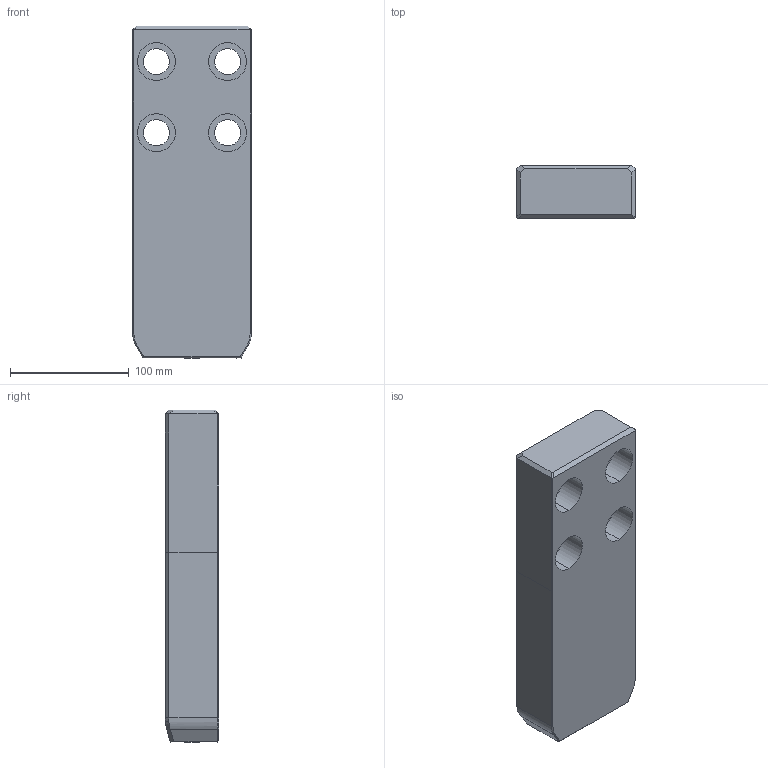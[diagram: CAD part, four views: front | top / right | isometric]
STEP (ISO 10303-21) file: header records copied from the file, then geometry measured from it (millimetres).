
FILE_DESCRIPTION((''),'2;1');
FILE_NAME('','2010-08-30T14:08:16+09:00',('misumi'),(''),'M/STEP i/f 1R2-14','CADmeister v5.1','');
FILE_SCHEMA(('AUTOMOTIVE_DESIGN'));
Length unit declared in the file: millimetre
Products named in the file (1): OGPZ100-280
Bounding box: 100 x 45 x 280 mm (x, y, z)
Volume: 1137951 mm3; surface area: 100368.7 mm2
Topology: 1 solids, 1 shells, 66 faces, 156 edges, 97 vertices
Faces by surface type: plane 37, cylinder 21, bspline 6, cone 2
Entity records: 2262 total; most frequent: CARTESIAN_POINT 662, ORIENTED_EDGE 312, DIRECTION 300, EDGE_CURVE 156, AXIS2_PLACEMENT_3D 101, LINE 98, VECTOR 98, VERTEX_POINT 97
